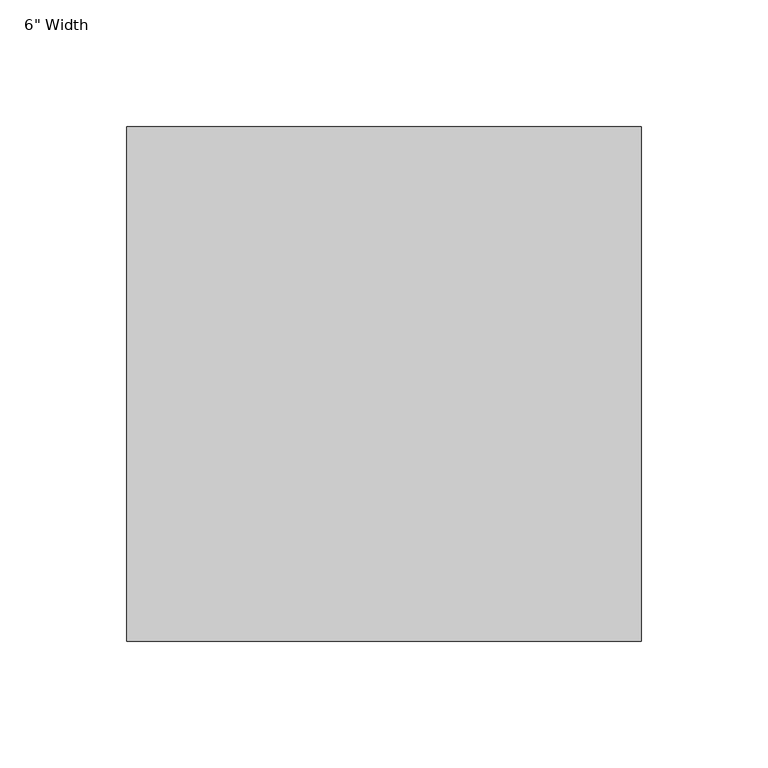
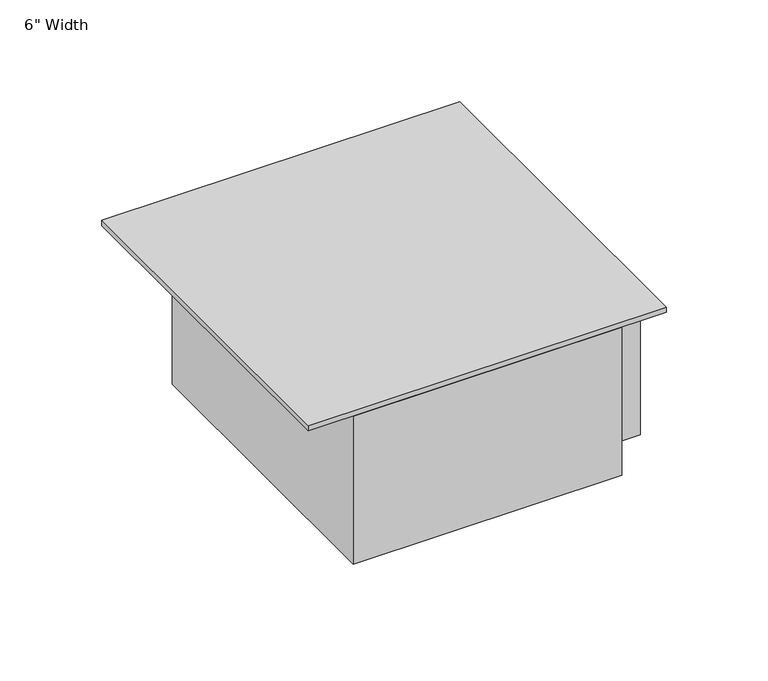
"""IFC4 building model written with IfcOpenShell, lengths in millimetres: proxy geometry."""

from ifc_helpers import new_model, si_unit, frame, origin, place, context, project, spatial, polyline, outline, extrude, source, transform, mapped, element, save


def proxy_295c4e63(model_context):
    return source(origin(), model_context, "Body", "SweptSolid", [
        extrude(outline(polyline([(101.6, 203.2), (101.6, 0.0), (-101.6, 0.0), (-101.6, 203.2), (101.6, 203.2)])), frame((0.0, 0.0, -3.175), z_axis=(0.0, 0.0, 1.0), x_axis=(1.0, 0.0, 0.0)), (0.0, 0.0, 1.0), 3.175),
        extrude(outline(polyline([(101.6, 177.8), (101.6, 25.4), (76.2, 25.4), (76.2, 0.0), (-76.2, 0.0), (-76.2, 177.8), (101.6, 177.8)])), frame((0.0, 0.0, -92.075), z_axis=(0.0, 0.0, 1.0), x_axis=(1.0, 0.0, 0.0)), (0.0, 0.0, 1.0), 88.9),
    ])


if __name__ == "__main__":
    model = new_model("IFC4")
    model_context = context("Model", 3, world=origin())
    ifc_project = project(units=[si_unit("LENGTHUNIT", "METRE", prefix="MILLI")], contexts=[model_context])
    site = spatial("IfcSite", under=ifc_project)
    building = spatial("IfcBuilding", under=site)
    placement = place(None, origin())
    proxy_shape = proxy_295c4e63(model_context)
    element("IfcBuildingElementProxy", 1, Name="Elbow-Wallduct-Wiremold-Horizontal : 6\" Width", ObjectType="Elbow-Wallduct-Wiremold-Horizontal : 6\" Width", at=placement, inside=building, context=model_context, shape_type="MappedRepresentation", body=[
        mapped(proxy_shape, transform((0.0, 0.0, 0.0), x_axis=(1.0, 0.0, 0.0), y_axis=(0.0, 1.0, 0.0), z_axis=(0.0, 0.0, 1.0))),
    ])
    save(model, "model.ifc")
